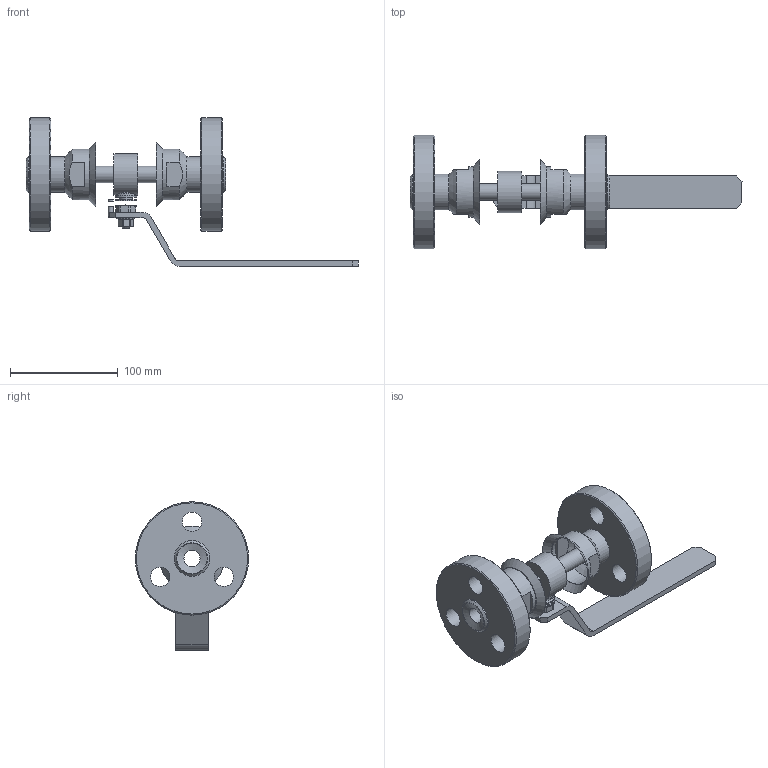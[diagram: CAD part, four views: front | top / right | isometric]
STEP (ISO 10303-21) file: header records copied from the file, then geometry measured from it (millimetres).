
FILE_DESCRIPTION(('STEP AP203'), '1');
FILE_NAME('ZARDP 015.250.26.P.stp', '2013-12-05T09:09:47', ('User'), ('Computer'), 'ASCON STEP Converter 1.3', 'Kompas 3D', '');
FILE_SCHEMA(('CONFIG_CONTROL_DESIGN','SUPPORT_RESOURCE_SCHEMA'));
Length unit declared in the file: millimetre
Products named in the file (1): 76
Bounding box: 307.5 x 105 x 137.5 mm (x, y, z)
Surface area: 104693.8 mm2
Topology: 2 solids, 3 shells, 176 faces, 404 edges, 251 vertices
Faces by surface type: plane 94, cylinder 51, cone 30, torus 1
Full cylindrical faces by diameter (mm): 5 x2, 8 x1, 10.7 x1, 10.917 x1, 12 x1, 12.1 x1, 15 x2, 18 x6, 19.8 x1, 20 x2, 33 x4, 38.4 x1, 47 x2, 60 x1, 105 x2
Entity records: 6299 total; most frequent: CARTESIAN_POINT 2136, DIRECTION 888, ORIENTED_EDGE 806, EDGE_CURVE 404, AXIS2_PLACEMENT_3D 341, VERTEX_POINT 251, EDGE_LOOP 210, LINE 206
